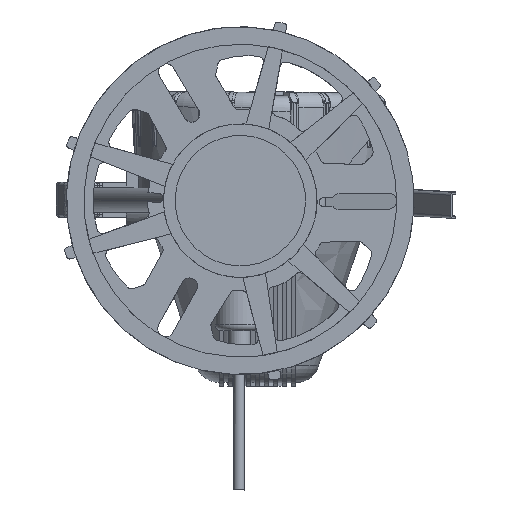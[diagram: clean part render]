
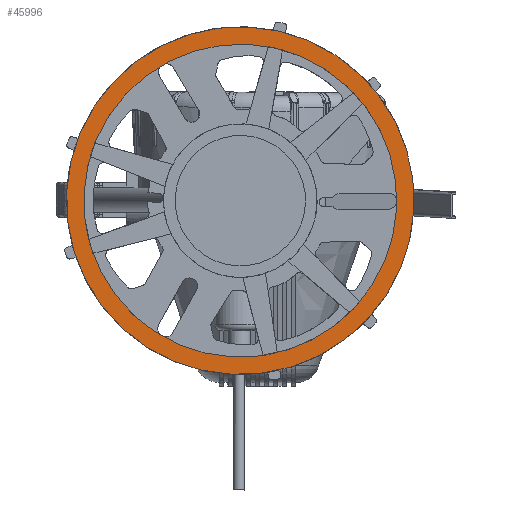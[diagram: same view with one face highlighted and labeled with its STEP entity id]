
A CAD part, front view. The second image highlights one B-rep face of the part: STEP entity #45996.
In plain terms, the highlighted planar face has unit normal (0, -1, 0).
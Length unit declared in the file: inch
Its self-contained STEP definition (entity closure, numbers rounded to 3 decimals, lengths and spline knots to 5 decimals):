
#7451 = DIRECTION ( 'NONE',  ( 0., 0., -1. ) ) ;
#7452 = DIRECTION ( 'NONE',  ( 0., -1., 0. ) ) ;
#7453 = CARTESIAN_POINT ( 'NONE',  ( 0., 0., 0. ) ) ;
#7454 = AXIS2_PLACEMENT_3D ( 'NONE', #7453, #7452, #7451 ) ;
#7455 = CIRCLE ( 'NONE', #7454, 5.4 ) ;
#23041 = EDGE_CURVE ( 'NONE', #47931, #47844, #7455, .T. ) ;
#28400 = AXIS2_PLACEMENT_3D ( 'NONE', #28462, #28461, #28460 ) ;
#28401 = CIRCLE ( 'NONE', #28400, 6. ) ;
#28460 = DIRECTION ( 'NONE',  ( 0., 0., 1. ) ) ;
#28461 = DIRECTION ( 'NONE',  ( 0., 1., 0. ) ) ;
#28462 = CARTESIAN_POINT ( 'NONE',  ( 0., 0., 0. ) ) ;
#31808 = PLANE ( 'NONE',  #31809 ) ;
#31809 = AXIS2_PLACEMENT_3D ( 'NONE', #31865, #31864, #31863 ) ;
#31810 = FACE_OUTER_BOUND ( 'NONE', #45925, .T. ) ;
#31811 = FACE_BOUND ( 'NONE', #45997, .T. ) ;
#31863 = DIRECTION ( 'NONE',  ( 0., 0., 1. ) ) ;
#31864 = DIRECTION ( 'NONE',  ( 0., 1., 0. ) ) ;
#31865 = CARTESIAN_POINT ( 'NONE',  ( 0., 0., 0. ) ) ;
#35834 = CARTESIAN_POINT ( 'NONE',  ( 0., 0., 5.4 ) ) ;
#36015 = CARTESIAN_POINT ( 'NONE',  ( 0., 0., -5.4 ) ) ;
#36080 = CARTESIAN_POINT ( 'NONE',  ( 0., 0., -6. ) ) ;
#36081 = DIRECTION ( 'NONE',  ( 0., 0., 1. ) ) ;
#36082 = DIRECTION ( 'NONE',  ( 0., 1., 0. ) ) ;
#36083 = CARTESIAN_POINT ( 'NONE',  ( 0., 0., 0. ) ) ;
#36084 = AXIS2_PLACEMENT_3D ( 'NONE', #36083, #36082, #36081 ) ;
#36085 = CIRCLE ( 'NONE', #36084, 6. ) ;
#36086 = CARTESIAN_POINT ( 'NONE',  ( 0., 0., 6. ) ) ;
#36104 = DIRECTION ( 'NONE',  ( 0., 0., -1. ) ) ;
#36105 = DIRECTION ( 'NONE',  ( 0., -1., 0. ) ) ;
#36106 = CARTESIAN_POINT ( 'NONE',  ( 0., 0., 0. ) ) ;
#36107 = AXIS2_PLACEMENT_3D ( 'NONE', #36106, #36105, #36104 ) ;
#36108 = CIRCLE ( 'NONE', #36107, 5.4 ) ;
#44664 = EDGE_CURVE ( 'NONE', #47956, #47953, #28401, .T. ) ;
#45925 = EDGE_LOOP ( 'NONE', ( #45926, #45927 ) ) ;
#45926 = ORIENTED_EDGE ( 'NONE', *, *, #44664, .F. ) ;
#45927 = ORIENTED_EDGE ( 'NONE', *, *, #47955, .F. ) ;
#45996 = ADVANCED_FACE ( 'NONE', ( #31811, #31810 ), #31808, .F. ) ;
#45997 = EDGE_LOOP ( 'NONE', ( #46001, #46002 ) ) ;
#46001 = ORIENTED_EDGE ( 'NONE', *, *, #23041, .F. ) ;
#46002 = ORIENTED_EDGE ( 'NONE', *, *, #47975, .F. ) ;
#47844 = VERTEX_POINT ( 'NONE', #35834 ) ;
#47931 = VERTEX_POINT ( 'NONE', #36015 ) ;
#47953 = VERTEX_POINT ( 'NONE', #36086 ) ;
#47955 = EDGE_CURVE ( 'NONE', #47953, #47956, #36085, .T. ) ;
#47956 = VERTEX_POINT ( 'NONE', #36080 ) ;
#47975 = EDGE_CURVE ( 'NONE', #47844, #47931, #36108, .T. ) ;
